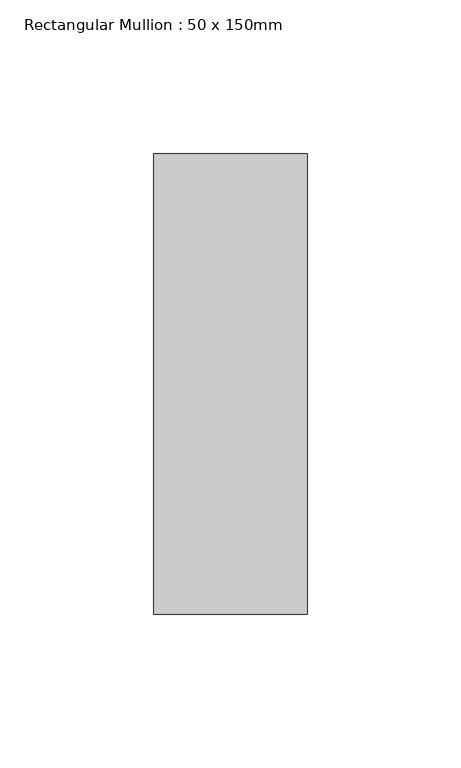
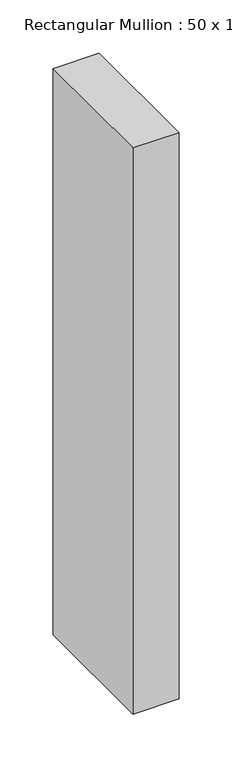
"""IFC4 building model written with IfcOpenShell, lengths in millimetres: member geometry, Rectangular Mullion : 50 x 150mm."""

from ifc_helpers import new_model, si_unit, frame, origin, place, context, project, spatial, polyline, outline, extrude, source, transform, mapped, element, save


def rectangular_mullion_50_x_150mm_a9044063(model_context):
    return source(origin(), model_context, "Body", "SweptSolid", [
        extrude(outline(polyline([(25.0, 75.0), (25.0, -75.0), (-25.0, -75.0), (-25.0, 75.0), (25.0, 75.0)])), frame((0.0, 0.0, -650.0000002), z_axis=(0.0, 0.0, 1.0), x_axis=(1.0, 0.0, 0.0)), (0.0, 0.0, 1.0), 650.0000002),
    ])


if __name__ == "__main__":
    model = new_model("IFC4")
    model_context = context("Model", 3, world=origin())
    ifc_project = project(units=[si_unit("LENGTHUNIT", "METRE", prefix="MILLI")], contexts=[model_context])
    site = spatial("IfcSite", under=ifc_project)
    building = spatial("IfcBuilding", under=site)
    placement = place(None, origin())
    rectangular_mullion_50_x_150mm_shape = rectangular_mullion_50_x_150mm_a9044063(model_context)
    element("IfcMember", 1, ObjectType="Rectangular Mullion : 50 x 150mm", at=placement, inside=building, context=model_context, shape_type="MappedRepresentation", body=[
        mapped(rectangular_mullion_50_x_150mm_shape, transform((0.0, 0.0, 0.0), x_axis=(1.0, 0.0, 0.0), y_axis=(0.0, 1.0, 0.0), z_axis=(0.0, 0.0, 1.0))),
    ])
    save(model, "model.ifc")
